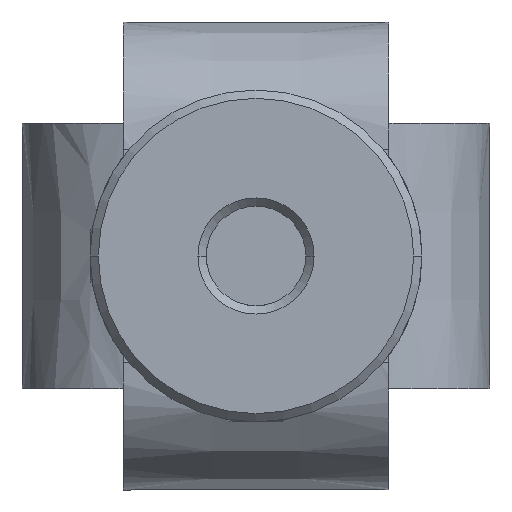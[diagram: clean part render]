
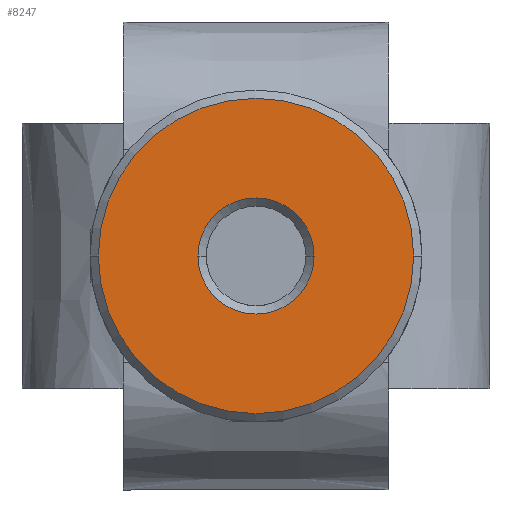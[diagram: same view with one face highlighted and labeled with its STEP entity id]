
A CAD part, front view. The second image highlights one B-rep face of the part: STEP entity #8247.
In plain terms, the highlighted planar face has unit normal (0, -1, 0).
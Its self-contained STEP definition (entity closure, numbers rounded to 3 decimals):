
#143 = DIRECTION ( 'NONE',  ( -1., 0., 0. ) ) ;
#831 = AXIS2_PLACEMENT_3D ( 'NONE', #5690, #1775, #5629 ) ;
#911 = FACE_OUTER_BOUND ( 'NONE', #5811, .T. ) ;
#981 = CIRCLE ( 'NONE', #5277, 3.5 ) ;
#1162 = VERTEX_POINT ( 'NONE', #5415 ) ;
#1531 = ORIENTED_EDGE ( 'NONE', *, *, #6333, .T. ) ;
#1775 = DIRECTION ( 'NONE',  ( 0., -1., 0. ) ) ;
#2149 = AXIS2_PLACEMENT_3D ( 'NONE', #2223, #3453, #6039 ) ;
#2223 = CARTESIAN_POINT ( 'NONE',  ( 0., -35.24, 0. ) ) ;
#2235 = DIRECTION ( 'NONE',  ( 0., 1., 0. ) ) ;
#2514 = VERTEX_POINT ( 'NONE', #5090 ) ;
#2568 = EDGE_CURVE ( 'NONE', #4962, #1162, #6903, .T. ) ;
#2863 = EDGE_CURVE ( 'NONE', #3350, #2514, #981, .T. ) ;
#2941 = CIRCLE ( 'NONE', #5403, 3.5 ) ;
#3103 = ORIENTED_EDGE ( 'NONE', *, *, #2568, .T. ) ;
#3350 = VERTEX_POINT ( 'NONE', #8342 ) ;
#3440 = DIRECTION ( 'NONE',  ( -1., 0., 0. ) ) ;
#3453 = DIRECTION ( 'NONE',  ( 0., -1., 0. ) ) ;
#3463 = DIRECTION ( 'NONE',  ( 0., -1., 0. ) ) ;
#4111 = CARTESIAN_POINT ( 'NONE',  ( 0., -35.24, 0. ) ) ;
#4118 = CARTESIAN_POINT ( 'NONE',  ( 0., -35.24, 0. ) ) ;
#4178 = DIRECTION ( 'NONE',  ( -1., 0., 0. ) ) ;
#4639 = CIRCLE ( 'NONE', #2149, 9.5 ) ;
#4962 = VERTEX_POINT ( 'NONE', #6199 ) ;
#5090 = CARTESIAN_POINT ( 'NONE',  ( -3.5, -35.24, 0. ) ) ;
#5138 = EDGE_LOOP ( 'NONE', ( #6955, #5432 ) ) ;
#5277 = AXIS2_PLACEMENT_3D ( 'NONE', #7341, #2235, #4178 ) ;
#5358 = DIRECTION ( 'NONE',  ( 0., 1., 0. ) ) ;
#5403 = AXIS2_PLACEMENT_3D ( 'NONE', #4118, #5358, #3440 ) ;
#5415 = CARTESIAN_POINT ( 'NONE',  ( 9.5, -35.24, 0. ) ) ;
#5432 = ORIENTED_EDGE ( 'NONE', *, *, #2863, .T. ) ;
#5629 = DIRECTION ( 'NONE',  ( -1., 0., 0. ) ) ;
#5690 = CARTESIAN_POINT ( 'NONE',  ( 0., -35.24, 0. ) ) ;
#5811 = EDGE_LOOP ( 'NONE', ( #1531, #3103 ) ) ;
#6039 = DIRECTION ( 'NONE',  ( -1., 0., 0. ) ) ;
#6107 = FACE_BOUND ( 'NONE', #5138, .T. ) ;
#6199 = CARTESIAN_POINT ( 'NONE',  ( -9.5, -35.24, 0. ) ) ;
#6333 = EDGE_CURVE ( 'NONE', #1162, #4962, #4639, .T. ) ;
#6495 = PLANE ( 'NONE',  #7852 ) ;
#6903 = CIRCLE ( 'NONE', #831, 9.5 ) ;
#6955 = ORIENTED_EDGE ( 'NONE', *, *, #7881, .T. ) ;
#7341 = CARTESIAN_POINT ( 'NONE',  ( 0., -35.24, 0. ) ) ;
#7852 = AXIS2_PLACEMENT_3D ( 'NONE', #4111, #3463, #143 ) ;
#7881 = EDGE_CURVE ( 'NONE', #2514, #3350, #2941, .T. ) ;
#8247 = ADVANCED_FACE ( 'NONE', ( #6107, #911 ), #6495, .T. ) ;
#8342 = CARTESIAN_POINT ( 'NONE',  ( 3.5, -35.24, 0. ) ) ;
